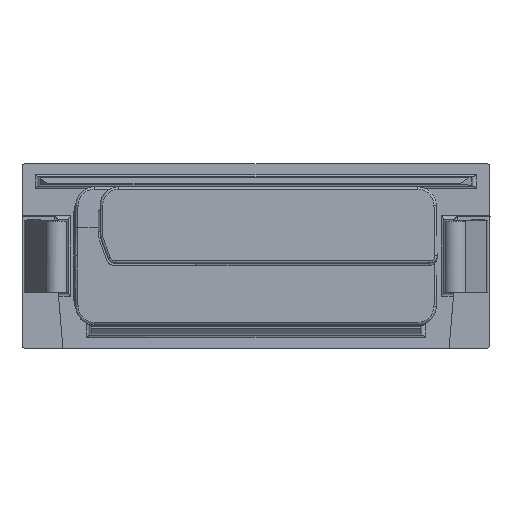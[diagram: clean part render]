
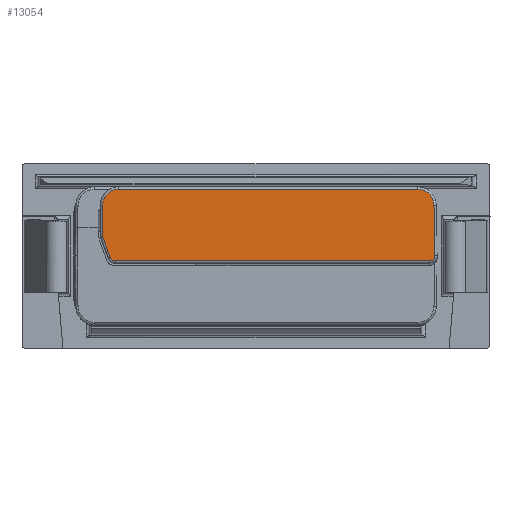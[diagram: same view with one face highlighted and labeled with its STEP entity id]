
A CAD part, top view. The second image highlights one B-rep face of the part: STEP entity #13054.
In plain terms, the highlighted planar face has unit normal (0, 0, 1) as drawn and (0, 0, -1) by its records, which use the part's own axes.
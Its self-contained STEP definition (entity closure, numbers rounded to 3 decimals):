
#762=CIRCLE('',#14053,2.2);
#1165=ELLIPSE('',#14036,0.7,0.7);
#1167=ELLIPSE('',#14041,0.7,0.7);
#1171=ELLIPSE('',#14047,2.201,2.2);
#1452=PLANE('',#14059);
#1974=FACE_OUTER_BOUND('',#2745,.T.);
#2745=EDGE_LOOP('',(#10453,#10454,#10455,#10456,#10457,#10458,#10459,#10460,
#10461,#10462));
#3800=LINE('',#20732,#5075);
#3802=LINE('',#20740,#5077);
#3803=LINE('',#20775,#5078);
#3805=LINE('',#20813,#5080);
#3807=LINE('',#20860,#5082);
#3808=LINE('',#20867,#5083);
#5075=VECTOR('',#16427,10.);
#5077=VECTOR('',#16437,10.);
#5078=VECTOR('',#16448,10.);
#5080=VECTOR('',#16458,10.);
#5082=VECTOR('',#16472,10.);
#5083=VECTOR('',#16483,10.);
#6368=VERTEX_POINT('',#20730);
#6369=VERTEX_POINT('',#20731);
#6371=VERTEX_POINT('',#20738);
#6373=VERTEX_POINT('',#20767);
#6375=VERTEX_POINT('',#20773);
#6376=VERTEX_POINT('',#20807);
#6377=VERTEX_POINT('',#20812);
#6378=VERTEX_POINT('',#20850);
#6380=VERTEX_POINT('',#20856);
#6382=VERTEX_POINT('',#20862);
#7817=EDGE_CURVE('',#6368,#6369,#3800,.T.);
#7822=EDGE_CURVE('',#6371,#6368,#3802,.T.);
#7824=EDGE_CURVE('',#6373,#6371,#1165,.T.);
#7827=EDGE_CURVE('',#6375,#6373,#3803,.T.);
#7830=EDGE_CURVE('',#6376,#6375,#1167,.T.);
#7832=EDGE_CURVE('',#6377,#6376,#3805,.T.);
#7836=EDGE_CURVE('',#6369,#6378,#1171,.T.);
#7839=EDGE_CURVE('',#6378,#6380,#3807,.T.);
#7842=EDGE_CURVE('',#6380,#6382,#762,.T.);
#7843=EDGE_CURVE('',#6382,#6377,#3808,.T.);
#10453=ORIENTED_EDGE('',*,*,#7817,.F.);
#10454=ORIENTED_EDGE('',*,*,#7822,.F.);
#10455=ORIENTED_EDGE('',*,*,#7824,.F.);
#10456=ORIENTED_EDGE('',*,*,#7827,.F.);
#10457=ORIENTED_EDGE('',*,*,#7830,.F.);
#10458=ORIENTED_EDGE('',*,*,#7832,.F.);
#10459=ORIENTED_EDGE('',*,*,#7843,.F.);
#10460=ORIENTED_EDGE('',*,*,#7842,.F.);
#10461=ORIENTED_EDGE('',*,*,#7839,.F.);
#10462=ORIENTED_EDGE('',*,*,#7836,.F.);
#13054=ADVANCED_FACE('',(#1974),#1452,.T.);
#14036=AXIS2_PLACEMENT_3D('',#20769,#16440,#16441);
#14041=AXIS2_PLACEMENT_3D('',#20809,#16452,#16453);
#14047=AXIS2_PLACEMENT_3D('',#20854,#16465,#16466);
#14053=AXIS2_PLACEMENT_3D('',#20865,#16479,#16480);
#14059=AXIS2_PLACEMENT_3D('',#20875,#16495,#16496);
#16427=DIRECTION('',(0.,1.,0.));
#16437=DIRECTION('',(0.342,0.94,0.));
#16440=DIRECTION('center_axis',(0.,0.,1.));
#16441=DIRECTION('ref_axis',(-0.342,-0.94,0.));
#16448=DIRECTION('',(1.,0.,0.));
#16452=DIRECTION('center_axis',(0.,0.,1.));
#16453=DIRECTION('ref_axis',(0.017,-1.,0.));
#16458=DIRECTION('',(0.017,-1.,0.));
#16465=DIRECTION('center_axis',(0.,0.,1.));
#16466=DIRECTION('ref_axis',(1.,0.,0.));
#16472=DIRECTION('',(-1.,0.,0.));
#16479=DIRECTION('center_axis',(0.,0.,1.));
#16480=DIRECTION('ref_axis',(-0.701,0.713,0.));
#16483=DIRECTION('',(-0.017,-1.,0.));
#16495=DIRECTION('center_axis',(0.,0.,-1.));
#16496=DIRECTION('ref_axis',(-1.,0.,0.));
#20730=CARTESIAN_POINT('',(18.113,2.616,-24.5));
#20731=CARTESIAN_POINT('',(18.113,6.9,-24.5));
#20732=CARTESIAN_POINT('',(18.113,3.075,-24.5));
#20738=CARTESIAN_POINT('',(17.07,-0.252,-24.5));
#20740=CARTESIAN_POINT('',(16.616,-1.498,-24.5));
#20767=CARTESIAN_POINT('',(16.411,-0.713,-24.5));
#20769=CARTESIAN_POINT('Origin',(16.412,-0.013,-24.5));
#20773=CARTESIAN_POINT('',(-26.7,-0.713,-24.5));
#20775=CARTESIAN_POINT('',(-7.275,-0.713,-24.5));
#20807=CARTESIAN_POINT('',(-27.4,-0.025,-24.5));
#20809=CARTESIAN_POINT('Origin',(-26.7,-0.013,
-24.5));
#20812=CARTESIAN_POINT('',(-27.4,0.,-24.5));
#20813=CARTESIAN_POINT('',(-27.396,-0.211,-24.5));
#20850=CARTESIAN_POINT('',(15.912,9.1,-24.5));
#20854=CARTESIAN_POINT('Origin',(15.912,6.9,-24.5));
#20856=CARTESIAN_POINT('',(-25.079,9.1,-24.5));
#20860=CARTESIAN_POINT('',(-2.9,9.1,-24.5));
#20862=CARTESIAN_POINT('',(-27.279,6.938,-24.5));
#20865=CARTESIAN_POINT('Origin',(-25.079,6.9,-24.5));
#20867=CARTESIAN_POINT('',(-27.396,0.211,-24.5));
#20875=CARTESIAN_POINT('Origin',(-2.9,0.,-24.5));
